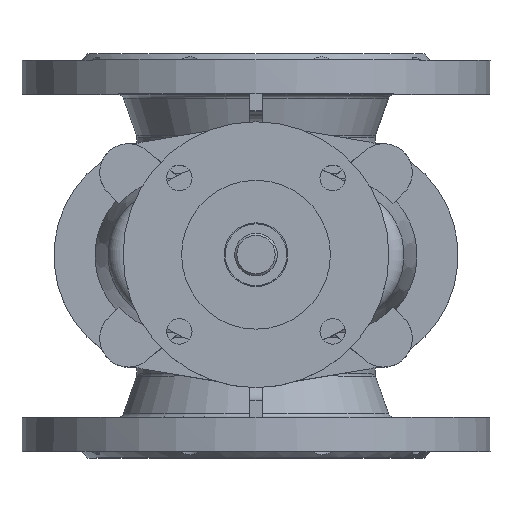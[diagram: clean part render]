
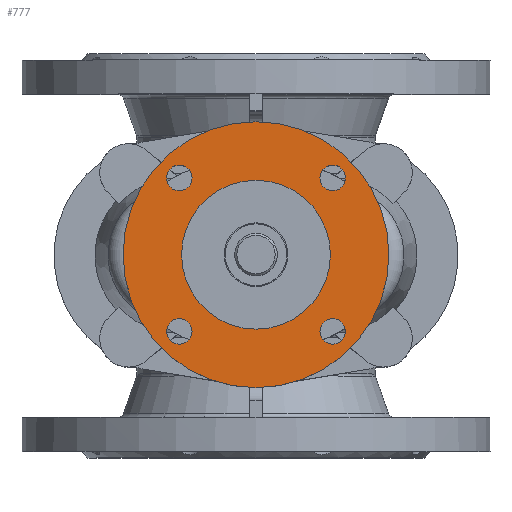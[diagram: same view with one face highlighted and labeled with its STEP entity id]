
A CAD part, top view. The second image highlights one B-rep face of the part: STEP entity #777.
In plain terms, the highlighted planar face has unit normal (0, 0, 1).
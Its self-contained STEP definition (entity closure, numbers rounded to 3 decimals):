
#777=ADVANCED_FACE('',(#2799,#2801,#2803,#2805,#2807,#2809),#2811,.T.);
#2799=FACE_BOUND('',#2800,.T.);
#2800=EDGE_LOOP('',(#4993));
#2801=FACE_BOUND('',#2802,.T.);
#2802=EDGE_LOOP('',(#4994));
#2803=FACE_BOUND('',#2804,.T.);
#2804=EDGE_LOOP('',(#4995));
#2805=FACE_BOUND('',#2806,.T.);
#2806=EDGE_LOOP('',(#4996));
#2807=FACE_BOUND('',#2808,.T.);
#2808=EDGE_LOOP('',(#4997));
#2809=FACE_BOUND('',#2810,.T.);
#2810=EDGE_LOOP('',(#4998));
#2811=PLANE('',#2812);
#2812=AXIS2_PLACEMENT_3D('',#2813,#2814,#2815);
#2813=CARTESIAN_POINT('',(0.,0.,350.));
#2814=DIRECTION('',(0.,0.,1.));
#2815=DIRECTION('',(-1.,0.,0.));
#4993=ORIENTED_EDGE('',*,*,#6075,.F.);
#4994=ORIENTED_EDGE('',*,*,#6076,.T.);
#4995=ORIENTED_EDGE('',*,*,#6077,.T.);
#4996=ORIENTED_EDGE('',*,*,#6078,.T.);
#4997=ORIENTED_EDGE('',*,*,#6092,.T.);
#4998=ORIENTED_EDGE('',*,*,#6079,.T.);
#6075=EDGE_CURVE('',#6860,#6860,#6861,.T.);
#6076=EDGE_CURVE('',#6862,#6862,#6863,.F.);
#6077=EDGE_CURVE('',#6864,#6864,#6865,.F.);
#6078=EDGE_CURVE('',#6866,#6866,#6867,.F.);
#6079=EDGE_CURVE('',#6868,#6868,#6869,.F.);
#6092=EDGE_CURVE('',#6891,#6891,#6892,.T.);
#6860=VERTEX_POINT('',#8963);
#6861=CIRCLE('',#8964,62.5);
#6862=VERTEX_POINT('',#8968);
#6863=CIRCLE('',#8969,6.);
#6864=VERTEX_POINT('',#8973);
#6865=CIRCLE('',#8974,6.);
#6866=VERTEX_POINT('',#8978);
#6867=CIRCLE('',#8979,6.);
#6868=VERTEX_POINT('',#8983);
#6869=CIRCLE('',#8984,6.);
#6891=VERTEX_POINT('',#9045);
#6892=CIRCLE('',#9046,35.);
#8963=CARTESIAN_POINT('',(-62.5,0.,350.));
#8964=AXIS2_PLACEMENT_3D('',#8965,#8966,#8967);
#8965=CARTESIAN_POINT('',(0.,0.,350.));
#8966=DIRECTION('',(0.,0.,-1.));
#8967=DIRECTION('',(-1.,0.,0.));
#8968=CARTESIAN_POINT('',(36.062,-30.062,350.));
#8969=AXIS2_PLACEMENT_3D('',#8970,#8971,#8972);
#8970=CARTESIAN_POINT('',(36.062,-36.062,350.));
#8971=DIRECTION('',(0.,0.,1.));
#8972=DIRECTION('',(0.,1.,0.));
#8973=CARTESIAN_POINT('',(-30.062,-36.062,350.));
#8974=AXIS2_PLACEMENT_3D('',#8975,#8976,#8977);
#8975=CARTESIAN_POINT('',(-36.062,-36.062,350.));
#8976=DIRECTION('',(0.,0.,1.));
#8977=DIRECTION('',(1.,0.,0.));
#8978=CARTESIAN_POINT('',(-36.062,30.062,350.));
#8979=AXIS2_PLACEMENT_3D('',#8980,#8981,#8982);
#8980=CARTESIAN_POINT('',(-36.062,36.062,350.));
#8981=DIRECTION('',(0.,0.,1.));
#8982=DIRECTION('',(0.,-1.,0.));
#8983=CARTESIAN_POINT('',(30.062,36.062,350.));
#8984=AXIS2_PLACEMENT_3D('',#8985,#8986,#8987);
#8985=CARTESIAN_POINT('',(36.062,36.062,350.));
#8986=DIRECTION('',(0.,0.,1.));
#8987=DIRECTION('',(-1.,0.,0.));
#9045=CARTESIAN_POINT('',(-35.,0.,350.));
#9046=AXIS2_PLACEMENT_3D('',#9047,#9048,#9049);
#9047=CARTESIAN_POINT('',(0.,0.,350.));
#9048=DIRECTION('',(0.,0.,-1.));
#9049=DIRECTION('',(-1.,0.,0.));
